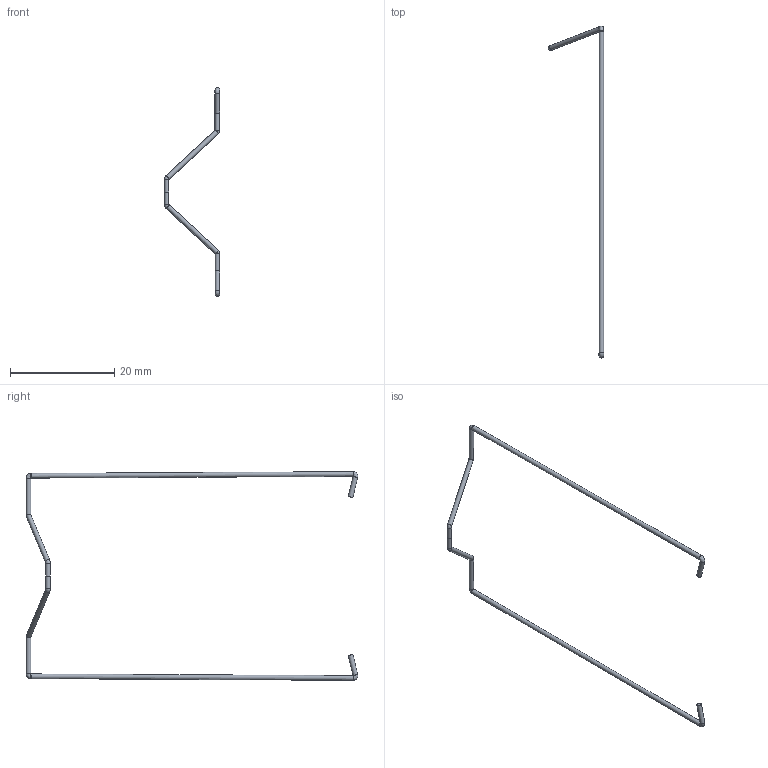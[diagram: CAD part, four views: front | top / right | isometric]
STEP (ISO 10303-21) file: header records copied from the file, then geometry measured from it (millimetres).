
FILE_DESCRIPTION(('STEP AP214'),'2;1');
FILE_NAME('09271----skin-finito_bene_x_montaggio2.stp','2010-08-06T15:35:50',(''),(''),'2007.1.106','THINKDESIGN','');
FILE_SCHEMA(('AUTOMOTIVE_DESIGN'));
Length unit declared in the file: millimetre
Products named in the file (1): None
Bounding box: 10.61 x 63.51 x 39.96 mm (x, y, z)
Surface area: 514.1 mm2 (no closed solid volume)
Topology: 0 solids, 0 shells, 20 faces, 58 edges, 40 vertices
Faces by surface type: bspline 18, plane 2
Entity records: 1953 total; most frequent: CARTESIAN_POINT 1722, STYLED_ITEM 20, PRESENTATION_STYLE_ASSIGNMENT 20, SURFACE_STYLE_USAGE 20, SURFACE_SIDE_STYLE 20, SURFACE_STYLE_FILL_AREA 20, FILL_AREA_STYLE 20, FILL_AREA_STYLE_COLOUR 20
